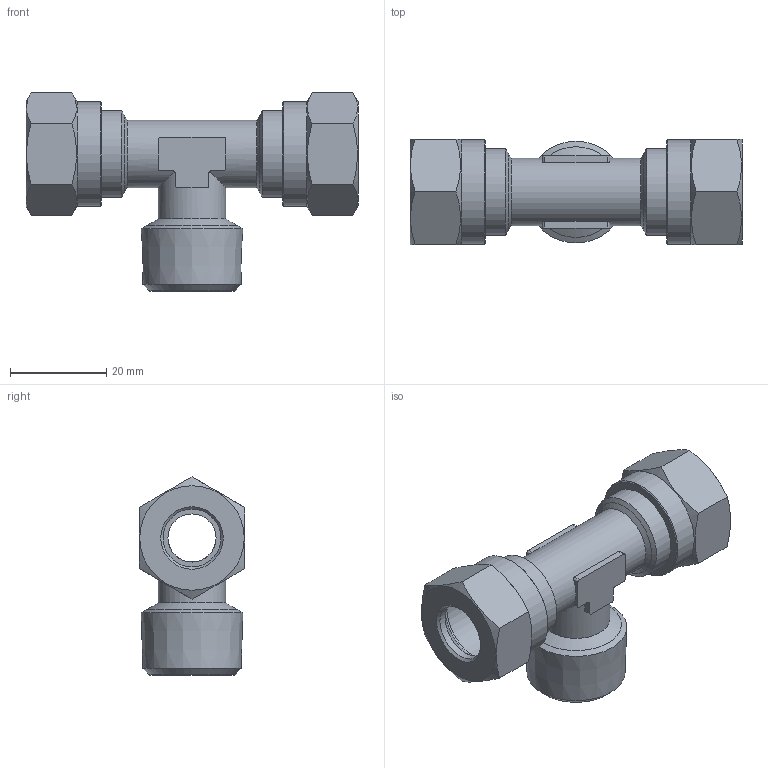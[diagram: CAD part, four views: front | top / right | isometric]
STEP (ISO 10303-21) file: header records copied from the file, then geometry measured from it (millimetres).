
FILE_DESCRIPTION(('Bauteilbeschreibung','HiCAD-Model','HiCAD-STEP-TRANSLATION','Bauteilbeschreibung'),'2;1');
FILE_NAME('B:/ABGLEICH/ZEICHNUNGEN/STEP FÜR INTERNET/STEP/207/92211_207_12_1-2.STP','2011-10-19T16:23:47+00:00',('Konstrukteur'),('Konstrukteur Firma GmbH'),' HiCAD neXt 2008, Step 3.1.1401.2J ','HiCAD neXt 2008','confidential');
FILE_SCHEMA(('AUTOMOTIVE_DESIGN { 1 2 10303 214 0 1 1 1 }'));
Length unit declared in the file: millimetre
Products named in the file (12): A2211_207_12_1_2; A6805; A68050; DIN 13_M18X1_5; A68051; A68052; DIN0130M18X105; A2211; A22110; DIN0130M18X1050; DIN0130M18X1051; R 1_2
Assembly tree (11 placements, depth 3):
  A2211_207_12_1_2
    A6805
    A68050
      DIN 13_M18X1_5
    A68051
    A68052
      DIN0130M18X105
    A2211
    A22110
      DIN0130M18X1050
      DIN0130M18X1051
      R 1_2
Bounding box: 69 x 22 x 41.2 mm (x, y, z)
Volume: 14322.6 mm3; surface area: 17449.5 mm2
Topology: 8 solids, 8 shells, 117 faces, 285 edges, 181 vertices
Faces by surface type: plane 45, cylinder 41, cone 31
Full cylindrical faces by diameter (mm): 10 x2, 12 x4, 14 x2, 15 x1, 16.16 x8, 18 x6, 21.7 x2
Entity records: 6914 total; most frequent: CARTESIAN_POINT 3264, DIRECTION 536, ORIENTED_EDGE 416, AXIS2_PLACEMENT_3D 233, EDGE_CURVE 208, COLOUR_RGB 196, PRESENTATION_STYLE_ASSIGNMENT 196, EDGE_LOOP 190
